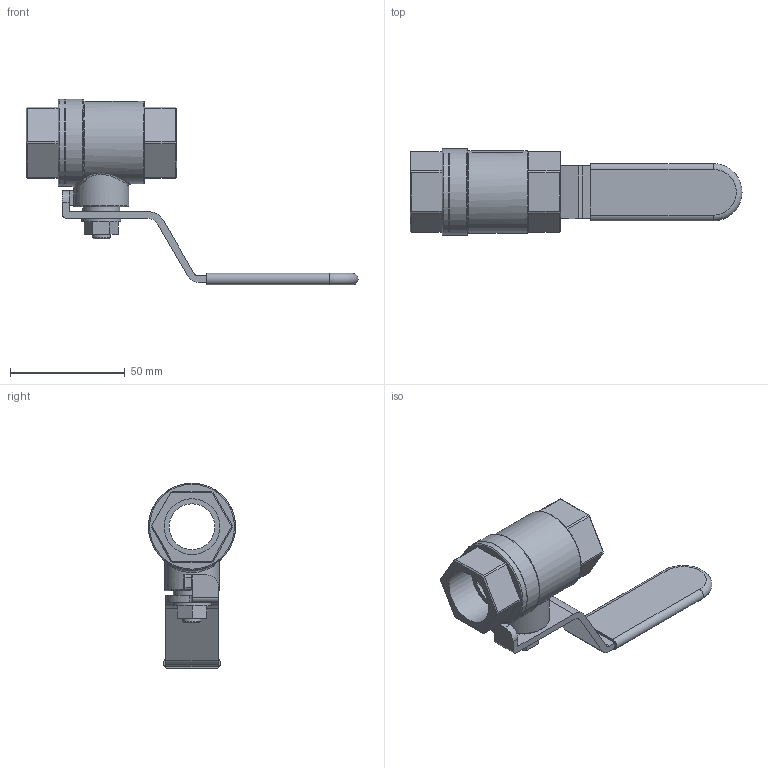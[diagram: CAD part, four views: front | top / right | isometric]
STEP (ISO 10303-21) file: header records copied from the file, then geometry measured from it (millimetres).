
FILE_DESCRIPTION( ( 'Unknown' ), '1' );
FILE_NAME( 'C:/Documents and Settings/Klaus/My Documents/Rootsi BPS 3D, Klaus/BPS 2410 ball valve, 2-pcs/STEP/BPS2410020 ball valve DN20.stp', 'Unknown', ( 'Unknown' ), ( 'Unknown' ), 'PSStep 10.1', 'Unknown', ' ' );
FILE_SCHEMA( ( 'AUTOMOTIVE_DESIGN { 1 0 10303 214 1 1 1 1 }' ) );
Length unit declared in the file: millimetre
Products named in the file (2): 1; 2
Bounding box: 144.85 x 38 x 81 mm (x, y, z)
Volume: 57625.5 mm3; surface area: 23787.3 mm2
Topology: 2 solids, 2 shells, 296 faces, 723 edges, 468 vertices
Faces by surface type: plane 207, extrusion 50, cylinder 24, bspline 8, torus 6, cone 1
Full cylindrical faces by diameter (mm): 8 x1, 16 x1, 17 x1, 20 x2, 24 x1, 24.376 x2, 36 x1, 38 x2
Entity records: 14578 total; most frequent: CARTESIAN_POINT 5931, ORIENTED_EDGE 1382, DIRECTION 986, EDGE_CURVE 691, VERTEX_POINT 461, VECTOR 364, EDGE_LOOP 362, B_SPLINE_CURVE_WITH_KNOTS 356
